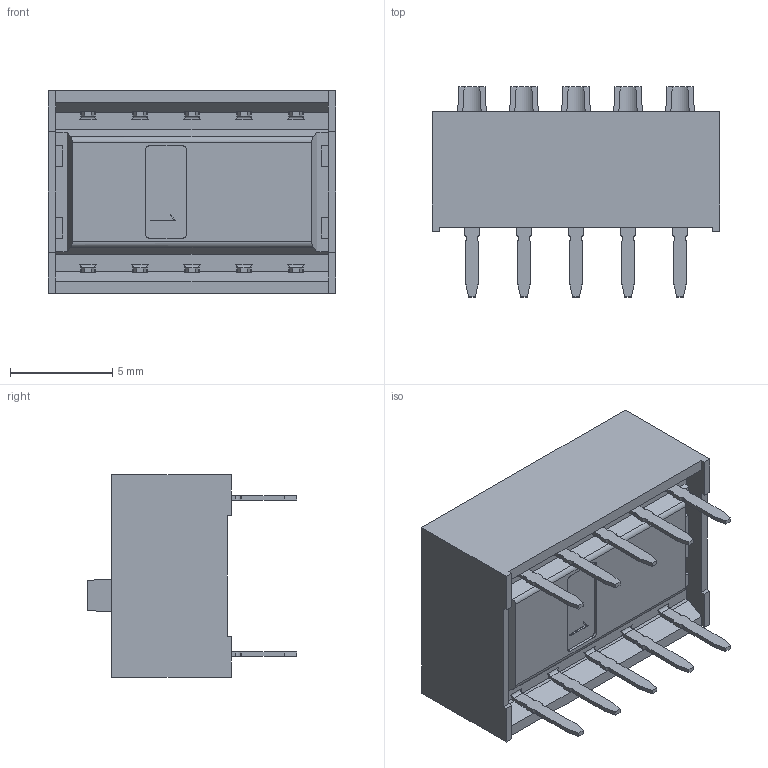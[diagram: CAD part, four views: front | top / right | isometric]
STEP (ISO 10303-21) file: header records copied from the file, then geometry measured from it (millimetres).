
FILE_DESCRIPTION (( 'STEP AP203' ), '1' );
FILE_NAME ('NDS-05V¹p®gµLDIP.STEP', '2019-12-30T05:54:46', ( '' ), ( '' ), 'SwSTEP 2.0', 'SolidWorks 2017', '' );
FILE_SCHEMA (( 'CONFIG_CONTROL_DESIGN' ));
Products named in the file (1): NDS-05V雷射無DIP
Bounding box: 14.06 x 10.25 x 9.9 mm (x, y, z)
Volume: 561.1 mm3; surface area: 1663.6 mm2
Topology: 1 solids, 1 shells, 1167 faces, 3420 edges, 2240 vertices
Faces by surface type: plane 882, cylinder 196, bspline 79, cone 10
Entity records: 41725 total; most frequent: CARTESIAN_POINT 11049, ORIENTED_EDGE 6840, DIRECTION 5714, EDGE_CURVE 3420, LINE 2800, VECTOR 2800, VERTEX_POINT 2240, AXIS2_PLACEMENT_3D 1457
